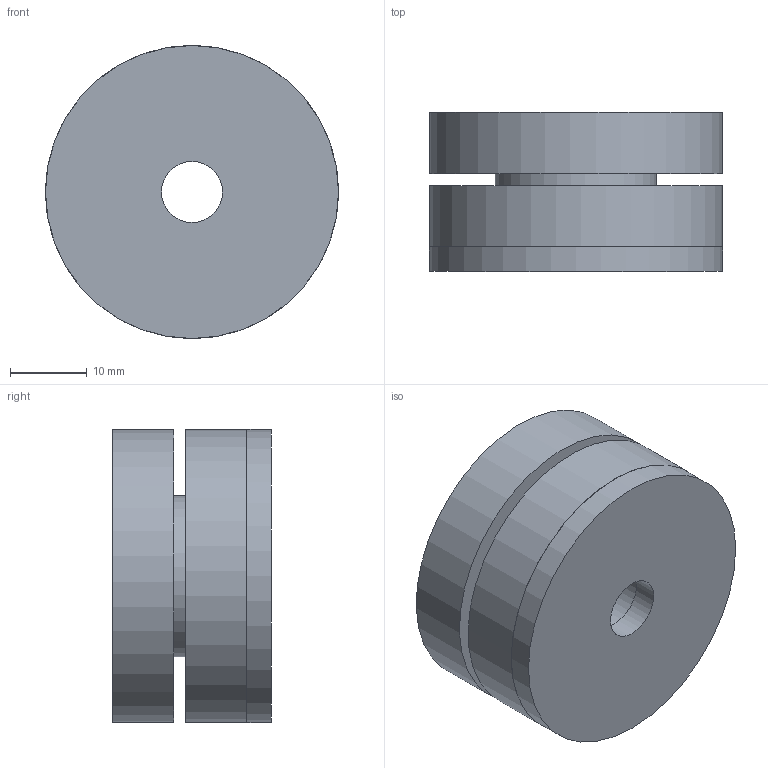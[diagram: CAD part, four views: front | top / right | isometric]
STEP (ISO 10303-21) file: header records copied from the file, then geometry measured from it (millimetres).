
FILE_DESCRIPTION((''),'2;1');
FILE_NAME('C:\REVIT SHARED FILES\STP\PB\PB-150.stp','2013-09-06T17:13:38',('rramoutar'),(''),'Autodesk Inventor 2012','Autodesk Inventor 2012','');
FILE_SCHEMA(('AUTOMOTIVE_DESIGN { 1 0 10303 214 1 1 1 1 }'));
Length unit declared in the file: inch
Products named in the file (6): A-24494-1 PB-150 ASSY; A-24494-1 PB-150 MOLDED WASHER; A-24494-1 PB-150 INNER TUBE; A-24494-1 PB-150 OUTER TUBE; A-24494-1 PB-150 STEEL WASHER; A-24494-1 PB-150 INNER MOLD
Assembly tree (6 placements, depth 2):
  A-24494-1 PB-150 ASSY
    A-24494-1 PB-150 MOLDED WASHER  x2
    A-24494-1 PB-150 INNER TUBE
    A-24494-1 PB-150 OUTER TUBE
    A-24494-1 PB-150 STEEL WASHER
    A-24494-1 PB-150 INNER MOLD
Bounding box: 38.1 x 20.64 x 38.1 mm (x, y, z)
Volume: 18955.8 mm3; surface area: 12480.3 mm2
Topology: 6 solids, 6 shells, 24 faces, 36 edges, 24 vertices
Faces by surface type: cylinder 12, plane 12
Full cylindrical faces by diameter (mm): 7.938 x1, 9 x1, 11 x2, 20 x2, 21 x3, 38.1 x3
Entity records: 623 total; most frequent: DIRECTION 104, CARTESIAN_POINT 72, AXIS2_PLACEMENT_3D 52, ORIENTED_EDGE 40, EDGE_LOOP 40, VERTEX_POINT 20, CIRCLE 20, EDGE_CURVE 20
